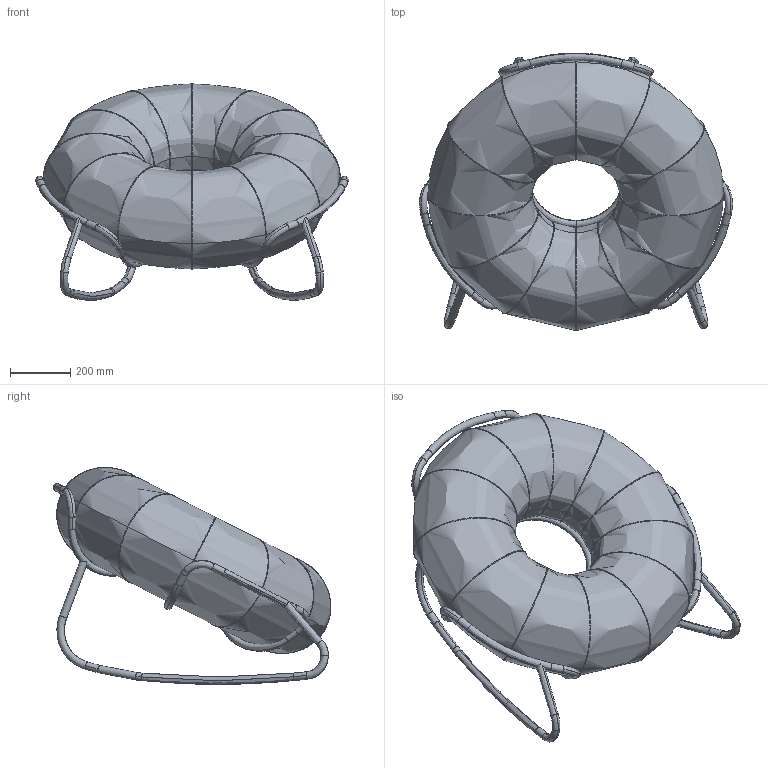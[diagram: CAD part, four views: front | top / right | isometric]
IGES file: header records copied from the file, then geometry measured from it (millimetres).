
Global section: file name: C:\Users\Usuario\Desktop\OGO\BIM\NOVEDADES 2024\BLOOM OUT\BLOOM OUT 98.igs; native system: Rhinoceros ( Feb 27 2019 ); preprocessor: Trout Lake IGES 012 Feb 27 2019; date: 241104.114756; units: millimetre
Bounding box: 1037.72 x 920.01 x 719.24 mm (x, y, z)
Surface area: 2736247.7 mm2 (no closed solid volume)
Topology: 0 solids, 0 shells, 181 faces, 8323 edges, 8323 vertices
Faces by surface type: bspline 181
